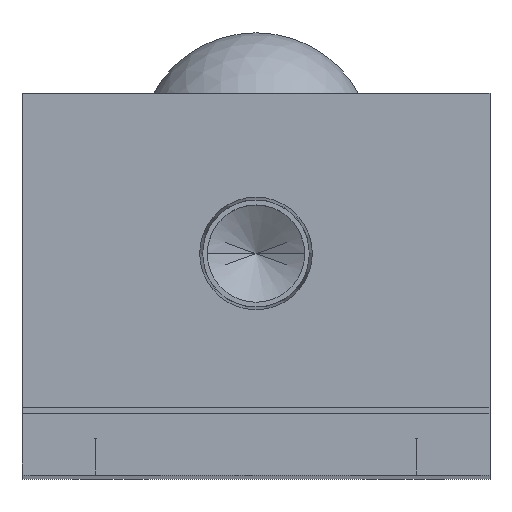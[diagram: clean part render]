
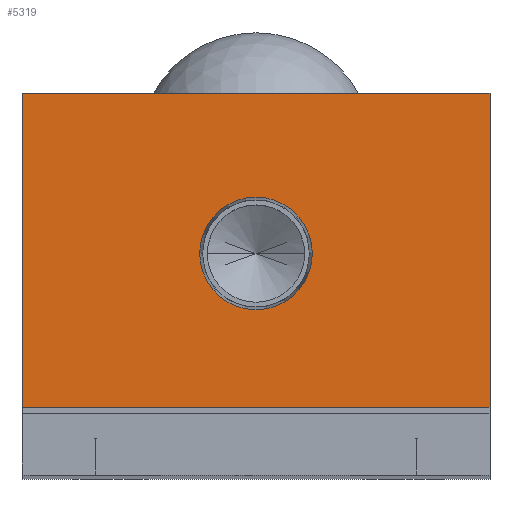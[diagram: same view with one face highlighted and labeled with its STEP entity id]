
A CAD part, top view. The second image highlights one B-rep face of the part: STEP entity #5319.
In plain terms, the highlighted planar face has unit normal (0, 0, 1).
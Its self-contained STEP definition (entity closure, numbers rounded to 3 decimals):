
#407 = PLANE ( 'NONE',  #1020 ) ;
#519 = DIRECTION ( 'NONE',  ( 0., -1., 0. ) ) ;
#726 = CARTESIAN_POINT ( 'NONE',  ( 19., 5.5, 0. ) ) ;
#769 = VERTEX_POINT ( 'NONE', #726 ) ;
#983 = DIRECTION ( 'NONE',  ( 0., 0., 1. ) ) ;
#1020 = AXIS2_PLACEMENT_3D ( 'NONE', #1530, #983, #4946 ) ;
#1111 = AXIS2_PLACEMENT_3D ( 'NONE', #1754, #5715, #2321 ) ;
#1220 = ORIENTED_EDGE ( 'NONE', *, *, #4904, .T. ) ;
#1267 = CARTESIAN_POINT ( 'NONE',  ( -4.574, 18., 0. ) ) ;
#1530 = CARTESIAN_POINT ( 'NONE',  ( 0., 0., 0. ) ) ;
#1754 = CARTESIAN_POINT ( 'NONE',  ( 0., 18., 0. ) ) ;
#2190 = VERTEX_POINT ( 'NONE', #1267 ) ;
#2303 = DIRECTION ( 'NONE',  ( -1., 0., 0. ) ) ;
#2307 = VERTEX_POINT ( 'NONE', #4780 ) ;
#2308 = CARTESIAN_POINT ( 'NONE',  ( 4.574, 18., 0. ) ) ;
#2321 = DIRECTION ( 'NONE',  ( 1., 0., 0. ) ) ;
#2376 = ORIENTED_EDGE ( 'NONE', *, *, #5767, .F. ) ;
#2399 = ORIENTED_EDGE ( 'NONE', *, *, #6414, .T. ) ;
#2400 = CIRCLE ( 'NONE', #1111, 4.574 ) ;
#2424 = VECTOR ( 'NONE', #7001, 1000. ) ;
#2470 = CARTESIAN_POINT ( 'NONE',  ( -19., 31., 0. ) ) ;
#2610 = ORIENTED_EDGE ( 'NONE', *, *, #6431, .T. ) ;
#2652 = EDGE_CURVE ( 'NONE', #5541, #2190, #5439, .T. ) ;
#2676 = VERTEX_POINT ( 'NONE', #2470 ) ;
#2692 = EDGE_CURVE ( 'NONE', #769, #5803, #3752, .T. ) ;
#2783 = EDGE_LOOP ( 'NONE', ( #6279, #2376 ) ) ;
#2879 = CARTESIAN_POINT ( 'NONE',  ( 19., 31., 0. ) ) ;
#3011 = CARTESIAN_POINT ( 'NONE',  ( 0., 18., 0. ) ) ;
#3061 = CARTESIAN_POINT ( 'NONE',  ( 19., 5.5, 0. ) ) ;
#3354 = CARTESIAN_POINT ( 'NONE',  ( -19., 31., 0. ) ) ;
#3423 = LINE ( 'NONE', #3354, #6078 ) ;
#3566 = DIRECTION ( 'NONE',  ( 1., 0., 0. ) ) ;
#3752 = LINE ( 'NONE', #3061, #2424 ) ;
#4006 = LINE ( 'NONE', #2879, #4274 ) ;
#4084 = FACE_OUTER_BOUND ( 'NONE', #5830, .T. ) ;
#4172 = AXIS2_PLACEMENT_3D ( 'NONE', #3011, #6947, #3566 ) ;
#4274 = VECTOR ( 'NONE', #2303, 1000. ) ;
#4780 = CARTESIAN_POINT ( 'NONE',  ( -19., 5.5, 0. ) ) ;
#4904 = EDGE_CURVE ( 'NONE', #5803, #2676, #4006, .T. ) ;
#4946 = DIRECTION ( 'NONE',  ( 1., 0., 0. ) ) ;
#5016 = DIRECTION ( 'NONE',  ( 1., 0., 0. ) ) ;
#5319 = ADVANCED_FACE ( 'NONE', ( #5591, #4084 ), #407, .T. ) ;
#5439 = CIRCLE ( 'NONE', #4172, 4.574 ) ;
#5541 = VERTEX_POINT ( 'NONE', #2308 ) ;
#5591 = FACE_BOUND ( 'NONE', #2783, .T. ) ;
#5715 = DIRECTION ( 'NONE',  ( 0., 0., 1. ) ) ;
#5761 = ORIENTED_EDGE ( 'NONE', *, *, #2692, .T. ) ;
#5767 = EDGE_CURVE ( 'NONE', #2190, #5541, #2400, .T. ) ;
#5803 = VERTEX_POINT ( 'NONE', #6832 ) ;
#5830 = EDGE_LOOP ( 'NONE', ( #2399, #5761, #1220, #2610 ) ) ;
#6078 = VECTOR ( 'NONE', #519, 1000. ) ;
#6238 = VECTOR ( 'NONE', #5016, 1000. ) ;
#6279 = ORIENTED_EDGE ( 'NONE', *, *, #2652, .F. ) ;
#6414 = EDGE_CURVE ( 'NONE', #2307, #769, #6769, .T. ) ;
#6431 = EDGE_CURVE ( 'NONE', #2676, #2307, #3423, .T. ) ;
#6769 = LINE ( 'NONE', #7278, #6238 ) ;
#6832 = CARTESIAN_POINT ( 'NONE',  ( 19., 31., 0. ) ) ;
#6947 = DIRECTION ( 'NONE',  ( 0., 0., 1. ) ) ;
#7001 = DIRECTION ( 'NONE',  ( 0., 1., 0. ) ) ;
#7278 = CARTESIAN_POINT ( 'NONE',  ( 19., 5.5, 0. ) ) ;
